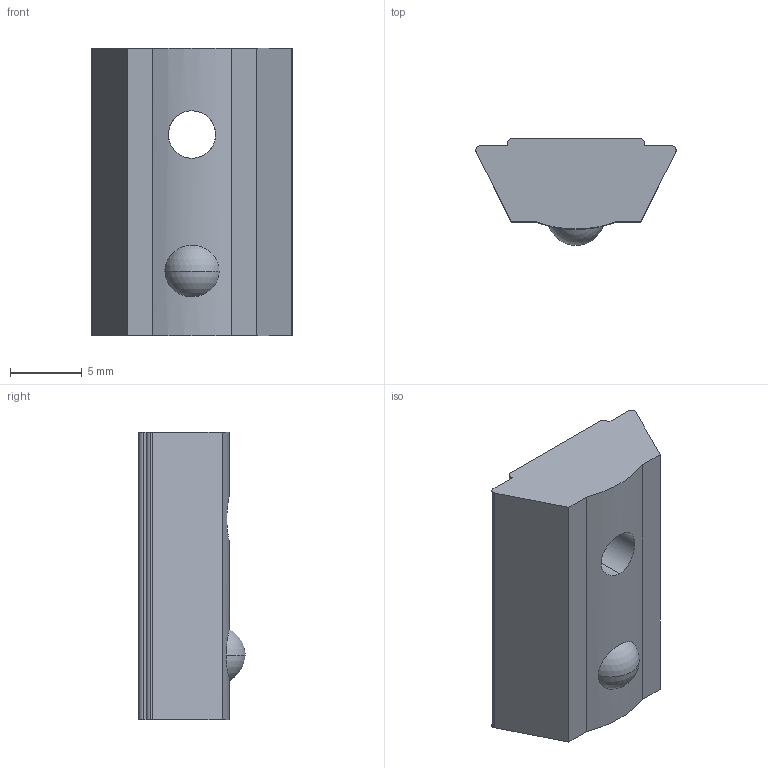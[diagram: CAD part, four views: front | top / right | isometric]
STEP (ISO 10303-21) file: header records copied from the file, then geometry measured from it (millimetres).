
FILE_DESCRIPTION (( 'STEP AP203' ), '1' );
FILE_NAME ('LIMA-LHNR4-104545.STEP', '2018-03-15T12:17:39', ( '' ), ( '' ), 'SwSTEP 2.0', 'SolidWorks 2013', '' );
FILE_SCHEMA (( 'CONFIG_CONTROL_DESIGN' ));
Length unit declared in the file: millimetre
Products named in the file (1): LIMA-LHNR4-104545
Bounding box: 13.93 x 7.4 x 20 mm (x, y, z)
Volume: 1317.1 mm3; surface area: 894.1 mm2
Topology: 1 solids, 1 shells, 21 faces, 55 edges, 37 vertices
Faces by surface type: plane 11, cylinder 8, sphere 2
Entity records: 832 total; most frequent: CARTESIAN_POINT 220, DIRECTION 111, ORIENTED_EDGE 110, EDGE_CURVE 55, AXIS2_PLACEMENT_3D 38, VERTEX_POINT 37, VECTOR 35, LINE 35
